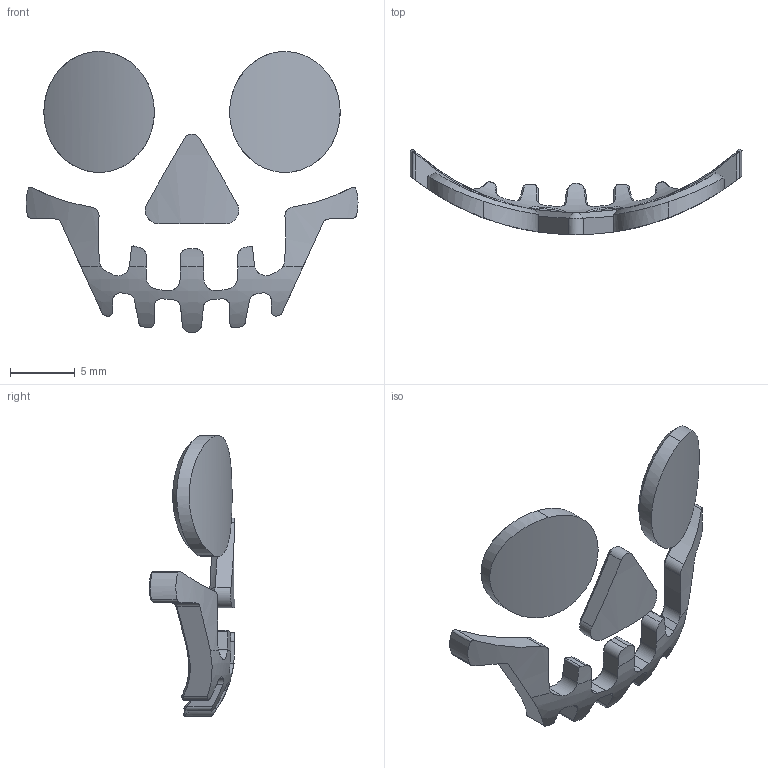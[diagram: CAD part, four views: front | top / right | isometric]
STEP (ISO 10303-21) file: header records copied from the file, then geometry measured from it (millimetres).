
FILE_DESCRIPTION(/* description */ (''),/* implementation_level */ '2;1');
FILE_NAME(/* name */ 'assembled face v4.step',/* time_stamp */ '2023-09-10T16:05:34-07:00',/* author */ (''),/* organization */ (''),/* preprocessor_version */ 'ST-DEVELOPER v19.2',/* originating_system */ 'Autodesk Translation Framework v12.6.0.85',/* authorisation */ '');
FILE_SCHEMA (('AUTOMOTIVE_DESIGN { 1 0 10303 214 3 1 1 }'));
Length unit declared in the file: millimetre
Products named in the file (5): assembled face; spooky left eye; spooky mouth; spooky nose; spooky right eye
Assembly tree (4 placements, depth 2):
  assembled face
    spooky left eye
    spooky mouth
    spooky nose
    spooky right eye
Bounding box: 25.73 x 6.63 x 21.78 mm (x, y, z)
Volume: 405.4 mm3; surface area: 803.2 mm2
Topology: 4 solids, 4 shells, 210 faces, 511 edges, 309 vertices
Faces by surface type: bspline 99, cylinder 79, plane 28, torus 2, cone 2
Entity records: 11745 total; most frequent: CARTESIAN_POINT 7499, ORIENTED_EDGE 1022, DIRECTION 541, EDGE_CURVE 511, VERTEX_POINT 309, B_SPLINE_CURVE_WITH_KNOTS 259, FACE_OUTER_BOUND 210, EDGE_LOOP 210
